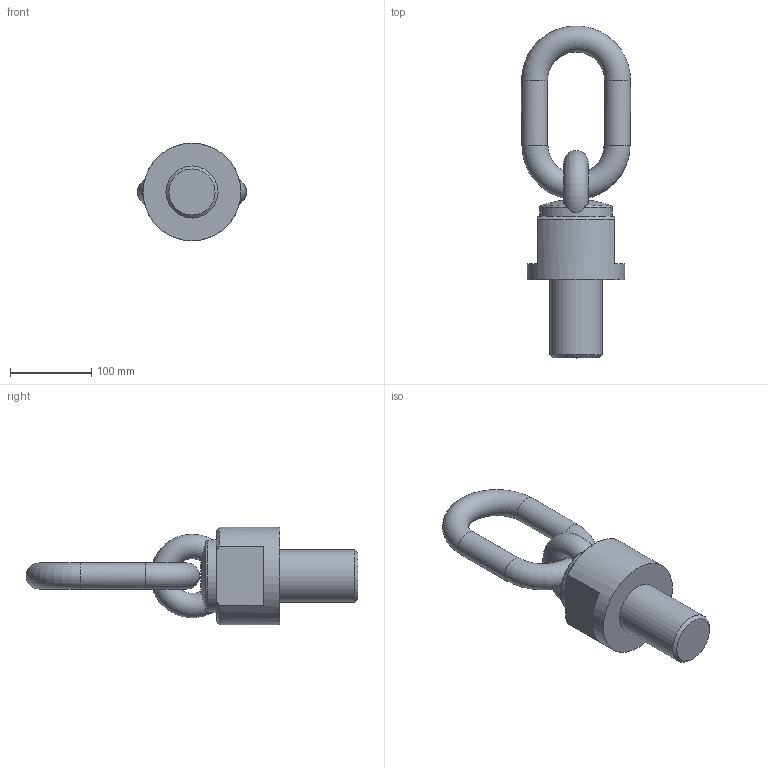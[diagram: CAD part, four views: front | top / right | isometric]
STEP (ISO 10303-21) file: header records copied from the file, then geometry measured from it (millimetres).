
FILE_DESCRIPTION( ( 'STEP AP203' ), '1' );
FILE_NAME( 'p:/temp/worker_4/temp/app_50_0201906261622193760738310e898ce_000000_00_00_000000/format_0/C8001506496.stp', '2019-06-26T14:22:20', ( '' ), ( '' ), ' ', 'PARTsolutions', ' ' );
FILE_SCHEMA( ( 'CONFIG_CONTROL_DESIGN' ) );
Length unit declared in the file: millimetre
Products named in the file (1): _C8001506496
Bounding box: 134 x 407.94 x 120 mm (x, y, z)
Volume: 1704738 mm3; surface area: 133064 mm2
Topology: 1 solids, 1 shells, 27 faces, 66 edges, 41 vertices
Faces by surface type: plane 12, torus 5, cylinder 5, cone 5
Full cylindrical faces by diameter (mm): 32 x2, 64 x1, 89.3 x1, 120 x1
Entity records: 1108 total; most frequent: CARTESIAN_POINT 498, DIRECTION 118, ORIENTED_EDGE 104, AXIS2_PLACEMENT_3D 55, EDGE_CURVE 52, EDGE_LOOP 40, VERTEX_POINT 37, FACE_OUTER_BOUND 35
